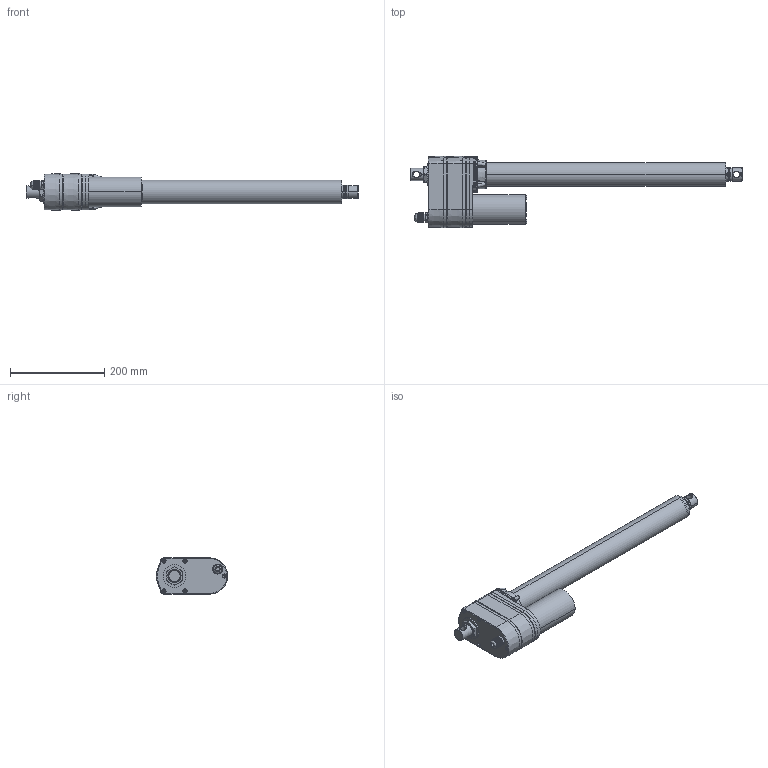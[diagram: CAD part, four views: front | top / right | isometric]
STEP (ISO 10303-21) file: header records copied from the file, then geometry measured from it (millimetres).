
FILE_DESCRIPTION((''),' ');
FILE_NAME('DSZY3-B-305-LT-LT_POT_2011_11_02.stp',' ',('Lindner'),('MSW Motion Control GmbH'),' ','ACIS 14.0',' ');
FILE_SCHEMA(('automotive_design'));
Length unit declared in the file: inch
Products named in the file (21): DSZY3-BL24_ASM|Next assembly relationship#02-1_ASM|Next assembly relationship#85;85; DSZY3-BL24_ASM|Next assembly relationship#6;6; DSZY3-BL24_ASM|Next assembly relationship#8;8; DSZY3-BL24_ASM|Next assembly relationship#49;49; DSZY3-BL24_ASM|Next assembly relationship#01_ASM|Next assembly relationship#48;48; DSZY3-BL24_ASM|Next assembly relationship#02-1_ASM|Next assembly relationship#86_BODY_M12;86_BODY_M12; DSZY3-BL24_ASM|Next assembly relationship#01_ASM|Next assembly relationship#19;19; DSZY3-BL24_ASM|Next assembly relationship#02-1_ASM|Next assembly relationship#91;91; DSZY3-BL24_ASM|Next assembly relationship#01_ASM|Next assembly relationship#21;21; DSZY3-BL24_ASM|Next assembly relationship#48;48; DSZY3-BL24_ASM|Next assembly relationship#42_A;42_A; DSZY3-BL24_ASM|Next assembly relationship#02-1_ASM|Next assembly relationship#87;87; DSZY3-BL24_ASM|Next assembly relationship#4;4; DSZY3-BL24_ASM|Next assembly relationship#7_833;7_833; DSZY3-BL24_ASM|Next assembly relationship#02-1_ASM|Next assembly relationship#89;89; DSZY3-BL24_ASM|Next assembly relationship#44;44; DSZY3-BL24_ASM|Next assembly relationship#01_ASM|Next assembly relationship#20;20
Bounding box: 705.7 x 151.65 x 77.15 mm (x, y, z)
Volume: 985951 mm3; surface area: 417969.1 mm2
Topology: 21 solids, 21 shells, 1038 faces, 2583 edges, 1606 vertices
Faces by surface type: plane 369, cylinder 313, cone 175, bspline 92, torus 79, sphere 10
Entity records: 44466 total; most frequent: CARTESIAN_POINT 11139, DIRECTION 5164, ORIENTED_EDGE 5126, EDGE_CURVE 2563, AXIS2_PLACEMENT_3D 2003, VERTEX_POINT 1606, EDGE_LOOP 1165, LINE 1158
